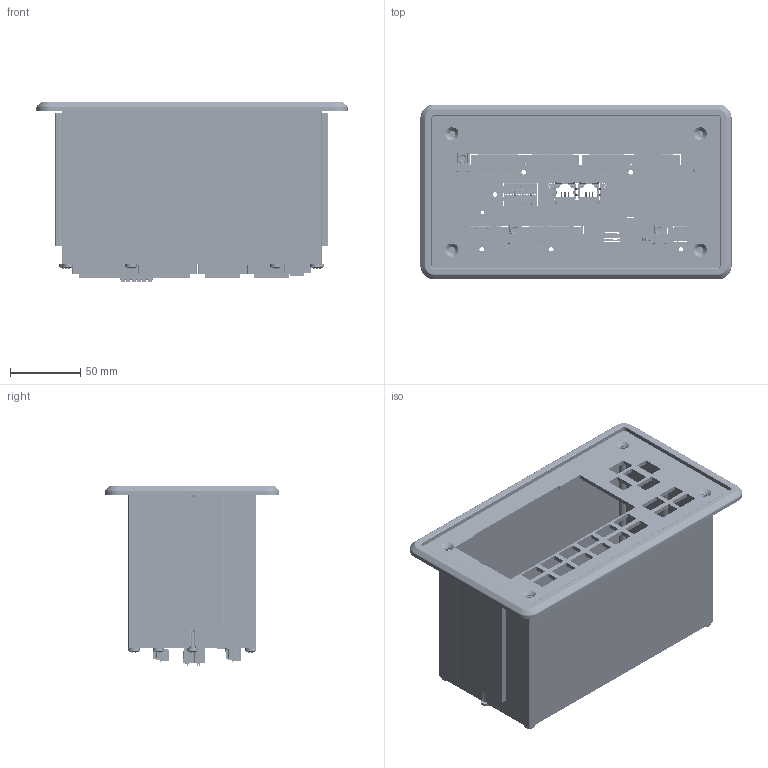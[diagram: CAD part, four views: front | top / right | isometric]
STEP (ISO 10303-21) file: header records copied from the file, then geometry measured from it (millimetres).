
FILE_DESCRIPTION(/* description */ (''),/* implementation_level */ '2;1');
FILE_NAME(/* name */ 'ft-11x-panel-assembled.step',/* time_stamp */ '2023-07-20T11:49:14+01:00',/* author */ (''),/* organization */ (''),/* preprocessor_version */ 'ST-DEVELOPER v19.2',/* originating_system */ 'Autodesk Translation Framework v12.6.0.85',/* authorisation */ '');
FILE_SCHEMA (('AUTOMOTIVE_DESIGN { 1 0 10303 214 3 1 1 }'));
Products named in the file (23): FT-11x Panel Assembled; 6014-000-03-00110 - FT-111 Fascia Plate - REV 2; 6014-000-03-00115 - FT-111 Bezel; FT112_P; M0016980_Bx3x_Panel_Profil_03_161007_1; BX_45mm_Alum_Aparat_01_1; M0019021_BX3x_Fill_PN_EI_EC_CC_PL_Rev01_180905; 1; 2; 3; pan head cross recess screw_din_DIN EN ISO 7045 - M4 x 12 - Z - 12N; CON_RS232_LC_1827758_05; mc_1.5-7-stf-3.81; CON_PWR_DC_1847356_03; mc_1.5-2-stf-5.08; pxc_1847107_04_MC-1-5-7-STF-3-5_3D; pxc_1847194_04_MC-1-5-9-STF-3-5_3D; mc_1.5-9-stf-3.5; mc_1.5-7-stf-3.5; pxc_1847181_04_MC-1-5-8-STF-3-5_3D; mc_1.5-8-stf-3.5; pxc_1748011_02_FMC-1-5-6-ST-3-81_3D; fmc_1.5-6-st-3.81
Assembly tree (35 placements, depth 4):
  FT-11x Panel Assembled
    6014-000-03-00110 - FT-111 Fascia Plate - REV 2
    6014-000-03-00115 - FT-111 Bezel
    FT112_P
      M0016980_Bx3x_Panel_Profil_03_161007_1
      BX_45mm_Alum_Aparat_01_1  x2
      M0019021_BX3x_Fill_PN_EI_EC_CC_PL_Rev01_180905
      pan head cross recess screw_din_DIN EN ISO 7045 - M4 x 12 - Z - 12N  x10
      1
      2
      3
      CON_RS232_LC_1827758_05
        mc_1.5-7-stf-3.81
      CON_PWR_DC_1847356_03
        mc_1.5-2-stf-5.08
      pxc_1847107_04_MC-1-5-7-STF-3-5_3D
        mc_1.5-7-stf-3.5
      pxc_1847181_04_MC-1-5-8-STF-3-5_3D  x2
        mc_1.5-8-stf-3.5
      pxc_1847194_04_MC-1-5-9-STF-3-5_3D
        mc_1.5-9-stf-3.5
      mc_1.5-7-stf-3.5
      pxc_1748011_02_FMC-1-5-6-ST-3-81_3D  x2
        fmc_1.5-6-st-3.81
Bounding box: 221.5 x 124.5 x 127.83 mm (x, y, z)
Volume: 346601.8 mm3; surface area: 295810.9 mm2
Topology: 25 solids, 288 shells, 8772 faces, 27733 edges, 19423 vertices
Faces by surface type: plane 6129, cylinder 2047, cone 307, torus 189, bspline 59, sphere 41
Full cylindrical faces by diameter (mm): 0.3 x1, 0.457 x9, 0.8 x8, 1 x4, 1.25 x44, 1.3 x1, 1.6 x51, 1.75 x14, 1.8 x10, 2.5 x29, 2.8 x48, 2.9 x48, 3 x19, 3.3 x10, 3.5 x2, 3.8 x14, 3.9 x14, 4 x10, 4.199 x1, 4.2 x12, 4.5 x4, 4.699 x8, 6.325 x4, 8 x10
Entity records: 274243 total; most frequent: CARTESIAN_POINT 68075, DIRECTION 39815, ORIENTED_EDGE 39006, EDGE_CURVE 22952, LINE 16717, VECTOR 16717, VERTEX_POINT 16329, AXIS2_PLACEMENT_3D 11549
